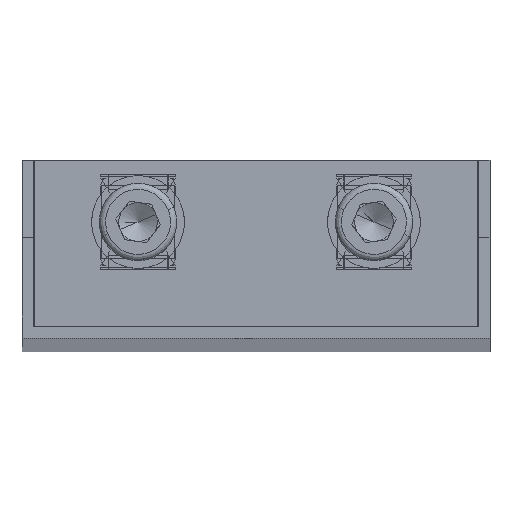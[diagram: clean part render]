
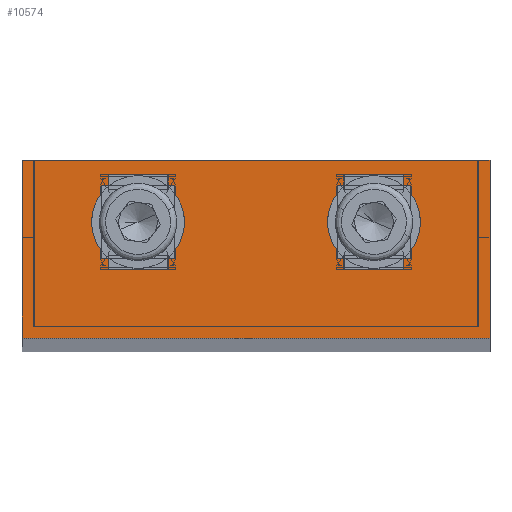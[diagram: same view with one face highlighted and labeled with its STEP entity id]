
A CAD part, top view. The second image highlights one B-rep face of the part: STEP entity #10574.
In plain terms, the highlighted planar face has unit normal (0, 0, 1).
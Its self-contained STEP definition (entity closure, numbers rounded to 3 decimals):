
#8766 = VERTEX_POINT('',#8767);
#8767 = CARTESIAN_POINT('',(-28.65,0.,507.));
#8782 = VERTEX_POINT('',#8783);
#8783 = CARTESIAN_POINT('',(28.65,0.,507.));
#8789 = EDGE_CURVE('',#8790,#8782,#8792,.T.);
#8790 = VERTEX_POINT('',#8791);
#8791 = CARTESIAN_POINT('',(28.75,0.,507.));
#8792 = LINE('',#8793,#8794);
#8793 = CARTESIAN_POINT('',(-28.75,0.,507.));
#8794 = VECTOR('',#8795,1.);
#8795 = DIRECTION('',(-1.,0.,0.));
#8846 = VERTEX_POINT('',#8847);
#8847 = CARTESIAN_POINT('',(-28.75,0.,507.));
#8853 = EDGE_CURVE('',#8846,#8766,#8854,.T.);
#8854 = LINE('',#8855,#8856);
#8855 = CARTESIAN_POINT('',(0.,0.,507.));
#8856 = VECTOR('',#8857,1.);
#8857 = DIRECTION('',(1.,0.,0.));
#8867 = EDGE_CURVE('',#8868,#8870,#8872,.T.);
#8868 = VERTEX_POINT('',#8869);
#8869 = CARTESIAN_POINT('',(-30.25,-1.5,507.));
#8870 = VERTEX_POINT('',#8871);
#8871 = CARTESIAN_POINT('',(30.25,-1.5,507.));
#8872 = LINE('',#8873,#8874);
#8873 = CARTESIAN_POINT('',(-28.75,-1.5,507.));
#8874 = VECTOR('',#8875,1.);
#8875 = DIRECTION('',(1.,0.,0.));
#8907 = EDGE_CURVE('',#8766,#8908,#8910,.T.);
#8908 = VERTEX_POINT('',#8909);
#8909 = CARTESIAN_POINT('',(-28.65,21.5,507.));
#8910 = LINE('',#8911,#8912);
#8911 = CARTESIAN_POINT('',(-28.65,0.6,507.));
#8912 = VECTOR('',#8913,1.);
#8913 = DIRECTION('',(0.,1.,0.));
#8938 = EDGE_CURVE('',#8782,#8939,#8941,.T.);
#8939 = VERTEX_POINT('',#8940);
#8940 = CARTESIAN_POINT('',(28.65,21.5,507.));
#8941 = LINE('',#8942,#8943);
#8942 = CARTESIAN_POINT('',(28.65,0.6,507.));
#8943 = VECTOR('',#8944,1.);
#8944 = DIRECTION('',(0.,1.,0.));
#8976 = EDGE_CURVE('',#8939,#8908,#8977,.T.);
#8977 = LINE('',#8978,#8979);
#8978 = CARTESIAN_POINT('',(0.,21.5,507.));
#8979 = VECTOR('',#8980,1.);
#8980 = DIRECTION('',(-1.,0.,0.));
#9082 = VERTEX_POINT('',#9083);
#9083 = CARTESIAN_POINT('',(28.75,21.5,507.));
#9089 = EDGE_CURVE('',#9082,#9090,#9092,.T.);
#9090 = VERTEX_POINT('',#9091);
#9091 = CARTESIAN_POINT('',(30.25,21.5,507.));
#9092 = LINE('',#9093,#9094);
#9093 = CARTESIAN_POINT('',(28.75,21.5,507.));
#9094 = VECTOR('',#9095,1.);
#9095 = DIRECTION('',(1.,0.,0.));
#9249 = EDGE_CURVE('',#8790,#9082,#9250,.T.);
#9250 = LINE('',#9251,#9252);
#9251 = CARTESIAN_POINT('',(28.75,0.,507.));
#9252 = VECTOR('',#9253,1.);
#9253 = DIRECTION('',(0.,1.,0.));
#9843 = EDGE_CURVE('',#8870,#9090,#9844,.T.);
#9844 = LINE('',#9845,#9846);
#9845 = CARTESIAN_POINT('',(30.25,0.,507.));
#9846 = VECTOR('',#9847,1.);
#9847 = DIRECTION('',(0.,1.,0.));
#10574 = ADVANCED_FACE('',(#10575,#10608,#10642),#10676,.F.);
#10575 = FACE_BOUND('',#10576,.T.);
#10576 = EDGE_LOOP('',(#10577,#10585,#10586,#10587,#10588,#10589,#10590,
    #10591,#10592,#10593,#10594,#10602));
#10577 = ORIENTED_EDGE('',*,*,#10578,.T.);
#10578 = EDGE_CURVE('',#10579,#8868,#10581,.T.);
#10579 = VERTEX_POINT('',#10580);
#10580 = CARTESIAN_POINT('',(-30.25,21.5,507.));
#10581 = LINE('',#10582,#10583);
#10582 = CARTESIAN_POINT('',(-30.25,21.5,507.));
#10583 = VECTOR('',#10584,1.);
#10584 = DIRECTION('',(-0.,-1.,-0.));
#10585 = ORIENTED_EDGE('',*,*,#8867,.T.);
#10586 = ORIENTED_EDGE('',*,*,#9843,.T.);
#10587 = ORIENTED_EDGE('',*,*,#9089,.F.);
#10588 = ORIENTED_EDGE('',*,*,#9249,.F.);
#10589 = ORIENTED_EDGE('',*,*,#8789,.T.);
#10590 = ORIENTED_EDGE('',*,*,#8938,.T.);
#10591 = ORIENTED_EDGE('',*,*,#8976,.T.);
#10592 = ORIENTED_EDGE('',*,*,#8907,.F.);
#10593 = ORIENTED_EDGE('',*,*,#8853,.F.);
#10594 = ORIENTED_EDGE('',*,*,#10595,.F.);
#10595 = EDGE_CURVE('',#10596,#8846,#10598,.T.);
#10596 = VERTEX_POINT('',#10597);
#10597 = CARTESIAN_POINT('',(-28.75,21.5,507.));
#10598 = LINE('',#10599,#10600);
#10599 = CARTESIAN_POINT('',(-28.75,21.5,507.));
#10600 = VECTOR('',#10601,1.);
#10601 = DIRECTION('',(0.,-1.,0.));
#10602 = ORIENTED_EDGE('',*,*,#10603,.F.);
#10603 = EDGE_CURVE('',#10579,#10596,#10604,.T.);
#10604 = LINE('',#10605,#10606);
#10605 = CARTESIAN_POINT('',(-30.25,21.5,507.));
#10606 = VECTOR('',#10607,1.);
#10607 = DIRECTION('',(1.,0.,0.));
#10608 = FACE_BOUND('',#10609,.T.);
#10609 = EDGE_LOOP('',(#10610,#10620,#10628,#10636));
#10610 = ORIENTED_EDGE('',*,*,#10611,.F.);
#10611 = EDGE_CURVE('',#10612,#10614,#10616,.T.);
#10612 = VERTEX_POINT('',#10613);
#10613 = CARTESIAN_POINT('',(-20.,18.25,507.));
#10614 = VERTEX_POINT('',#10615);
#10615 = CARTESIAN_POINT('',(-20.,8.75,507.));
#10616 = LINE('',#10617,#10618);
#10617 = CARTESIAN_POINT('',(-20.,8.75,507.));
#10618 = VECTOR('',#10619,1.);
#10619 = DIRECTION('',(-0.,-1.,-0.));
#10620 = ORIENTED_EDGE('',*,*,#10621,.F.);
#10621 = EDGE_CURVE('',#10622,#10612,#10624,.T.);
#10622 = VERTEX_POINT('',#10623);
#10623 = CARTESIAN_POINT('',(-10.5,18.25,507.));
#10624 = LINE('',#10625,#10626);
#10625 = CARTESIAN_POINT('',(-11.,18.25,507.));
#10626 = VECTOR('',#10627,1.);
#10627 = DIRECTION('',(-1.,0.,0.));
#10628 = ORIENTED_EDGE('',*,*,#10629,.F.);
#10629 = EDGE_CURVE('',#10630,#10622,#10632,.T.);
#10630 = VERTEX_POINT('',#10631);
#10631 = CARTESIAN_POINT('',(-10.5,8.75,507.));
#10632 = LINE('',#10633,#10634);
#10633 = CARTESIAN_POINT('',(-10.5,18.25,507.));
#10634 = VECTOR('',#10635,1.);
#10635 = DIRECTION('',(-0.,1.,-0.));
#10636 = ORIENTED_EDGE('',*,*,#10637,.F.);
#10637 = EDGE_CURVE('',#10614,#10630,#10638,.T.);
#10638 = LINE('',#10639,#10640);
#10639 = CARTESIAN_POINT('',(-10.5,8.75,507.));
#10640 = VECTOR('',#10641,1.);
#10641 = DIRECTION('',(1.,-0.,-0.));
#10642 = FACE_BOUND('',#10643,.T.);
#10643 = EDGE_LOOP('',(#10644,#10654,#10662,#10670));
#10644 = ORIENTED_EDGE('',*,*,#10645,.F.);
#10645 = EDGE_CURVE('',#10646,#10648,#10650,.T.);
#10646 = VERTEX_POINT('',#10647);
#10647 = CARTESIAN_POINT('',(10.5,18.25,507.));
#10648 = VERTEX_POINT('',#10649);
#10649 = CARTESIAN_POINT('',(10.5,8.75,507.));
#10650 = LINE('',#10651,#10652);
#10651 = CARTESIAN_POINT('',(10.5,8.75,507.));
#10652 = VECTOR('',#10653,1.);
#10653 = DIRECTION('',(-0.,-1.,-0.));
#10654 = ORIENTED_EDGE('',*,*,#10655,.F.);
#10655 = EDGE_CURVE('',#10656,#10646,#10658,.T.);
#10656 = VERTEX_POINT('',#10657);
#10657 = CARTESIAN_POINT('',(20.,18.25,507.));
#10658 = LINE('',#10659,#10660);
#10659 = CARTESIAN_POINT('',(11.,18.25,507.));
#10660 = VECTOR('',#10661,1.);
#10661 = DIRECTION('',(-1.,-0.,-0.));
#10662 = ORIENTED_EDGE('',*,*,#10663,.F.);
#10663 = EDGE_CURVE('',#10664,#10656,#10666,.T.);
#10664 = VERTEX_POINT('',#10665);
#10665 = CARTESIAN_POINT('',(20.,8.75,507.));
#10666 = LINE('',#10667,#10668);
#10667 = CARTESIAN_POINT('',(20.,17.75,507.));
#10668 = VECTOR('',#10669,1.);
#10669 = DIRECTION('',(0.,1.,0.));
#10670 = ORIENTED_EDGE('',*,*,#10671,.F.);
#10671 = EDGE_CURVE('',#10648,#10664,#10672,.T.);
#10672 = LINE('',#10673,#10674);
#10673 = CARTESIAN_POINT('',(19.5,8.75,507.));
#10674 = VECTOR('',#10675,1.);
#10675 = DIRECTION('',(1.,0.,0.));
#10676 = PLANE('',#10677);
#10677 = AXIS2_PLACEMENT_3D('',#10678,#10679,#10680);
#10678 = CARTESIAN_POINT('',(28.15,0.6,507.));
#10679 = DIRECTION('',(0.,0.,-1.));
#10680 = DIRECTION('',(-1.,0.,0.));
